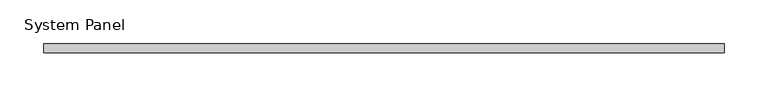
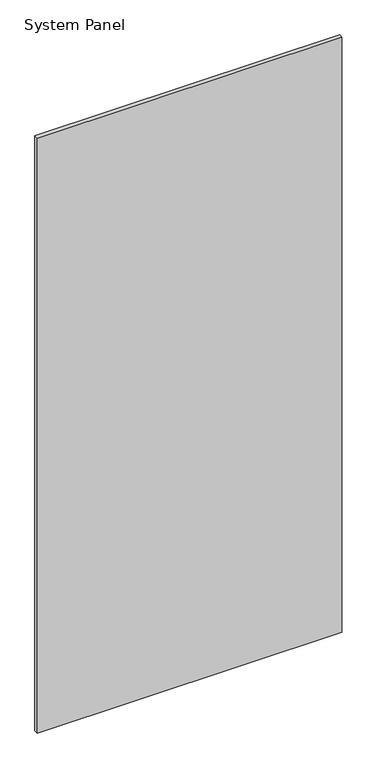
"""IFC4 building model written with IfcOpenShell, lengths in millimetres: plate geometry, System Panel : стекло_смещение_0."""

from ifc_helpers import new_model, si_unit, origin, origin_with_axes, place, context, project, spatial, polyline, outline, extrude, source, transform, mapped, element, save


def system_panel_d52bce6b(model_context):
    return source(origin(), model_context, "Body", "SweptSolid", [
        extrude(outline(polyline([(387.5, -5.0), (-387.5, -5.0), (-387.5, 5.0), (387.5, 5.0), (387.5, -5.0)])), origin_with_axes(), (0.0, 0.0, 1.0), 1600.0),
    ])


if __name__ == "__main__":
    model = new_model("IFC4")
    model_context = context("Model", 3, world=origin())
    ifc_project = project(units=[si_unit("LENGTHUNIT", "METRE", prefix="MILLI")], contexts=[model_context])
    site = spatial("IfcSite", under=ifc_project)
    building = spatial("IfcBuilding", under=site)
    placement = place(None, origin())
    system_panel_shape = system_panel_d52bce6b(model_context)
    element("IfcPlate", 1, ObjectType="System Panel : стекло_смещение_0", at=placement, inside=building, context=model_context, shape_type="MappedRepresentation", body=[
        mapped(system_panel_shape, transform((0.0, 0.0, 0.0), x_axis=(1.0, 0.0, 0.0), y_axis=(0.0, 1.0, 0.0), z_axis=(0.0, 0.0, 1.0))),
    ])
    save(model, "model.ifc")
